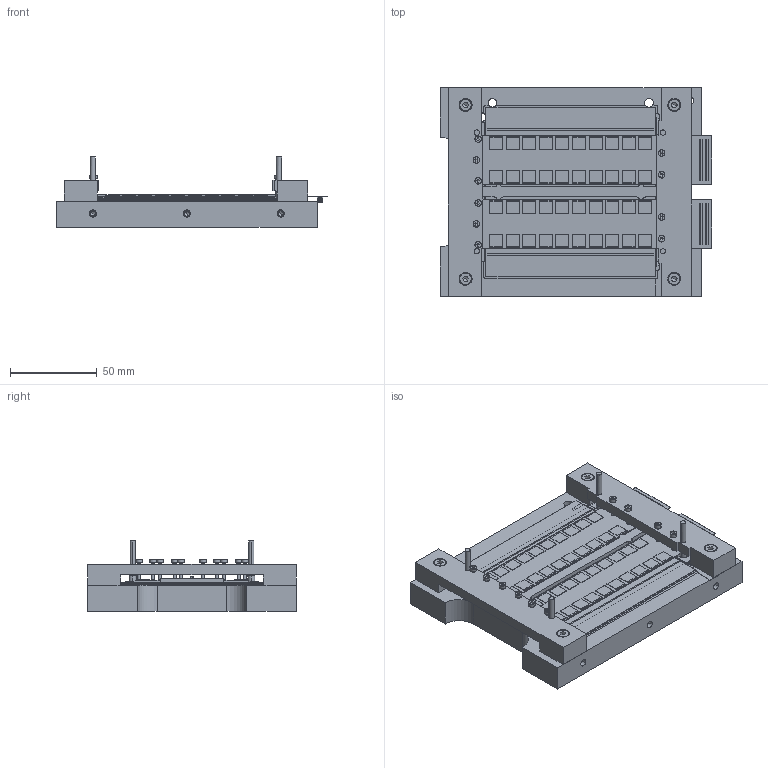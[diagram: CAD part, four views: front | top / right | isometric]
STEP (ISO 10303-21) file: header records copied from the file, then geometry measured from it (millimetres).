
FILE_DESCRIPTION(('CATIA V5 STEP Exchange'),'2;1');
FILE_NAME('D:\CATIA\ATLAS\Atlas_Maarten\atlas_upgrade_maarten\Ass.Module\STP\Outil_2_Phase4.stp','2010-09-02T14:33:00+00:00',('none'),('none'),'CATIA Version 5 Release 18 SP 4 (IN-10)','CATIA V5 STEP AP203','none');
FILE_SCHEMA(('CONFIG_CONTROL_DESIGN'));
Length unit declared in the file: millimetre
Products named in the file (11): Outil_2_Phase4; Detecteur_HV; Base-Board-Assemble; Hybride+PigTale_Plat; PigTale_Plat; Samtec CLE Femmel; Hybride+Bridge_C-C; Sous_Ensemble_Hybride_Sans_PT; 10_Dummy_ASIC; Presseur_Hybride_Ass; Presseur_Hybride_Flex_Ass
Assembly tree (73 placements, depth 6):
  Outil_2_Phase4
    #56
    #3740  x4
    Detecteur_HV  x2
      #3985
      #4683
    Base-Board-Assemble
      #5440  x4
      #5849
      #6414
      #6882  x4
      #7386
    #8034  x2
    #8247
    Hybride+PigTale_Plat  x2
      PigTale_Plat
        Samtec CLE Femmel
          #9723
          #23171
        #37496
      Hybride+Bridge_C-C
        #37692
        Sous_Ensemble_Hybride_Sans_PT
          10_Dummy_ASIC  x2
            #38006
          #38458
    #38691  x4
    Presseur_Hybride_Ass
      #38925
      #38691  x2
      #40167  x2
      #41058  x6
    Presseur_Hybride_Flex_Ass
      #41854
      #38691  x2
      #40167  x2
      #41058  x4
Bounding box: 156.02 x 120 x 40.73 mm (x, y, z)
Volume: 306825.5 mm3; surface area: 173942 mm2
Topology: 215 solids, 215 shells, 3625 faces, 8737 edges, 5597 vertices
Faces by surface type: plane 2818, cylinder 611, cone 116, torus 80
Entity records: 43044 total; most frequent: CARTESIAN_POINT 7901, ORIENTED_EDGE 7812, DIRECTION 5559, EDGE_CURVE 3906, VECTOR 2929, LINE 2929, VERTEX_POINT 2500, EDGE_LOOP 1824
